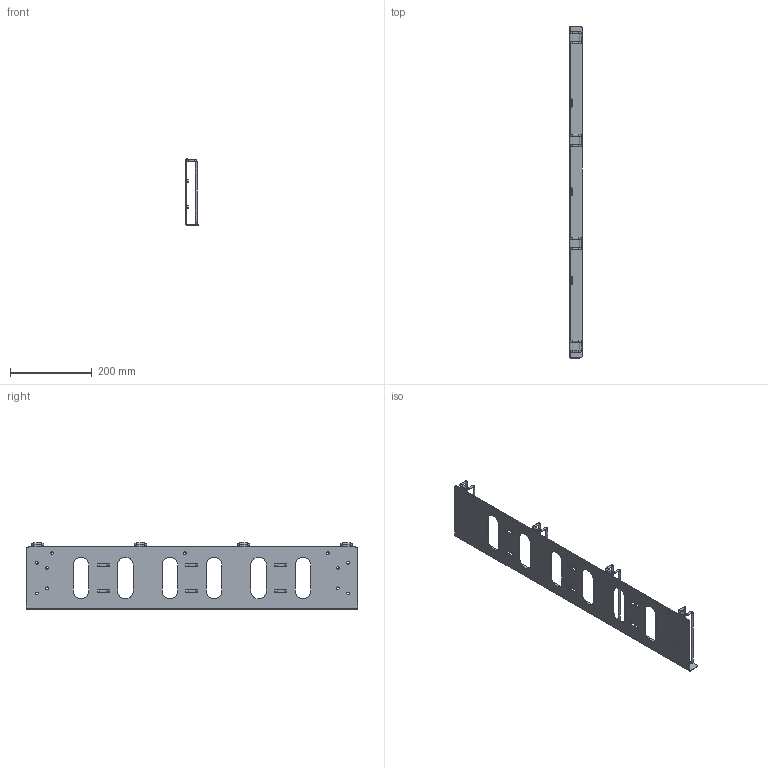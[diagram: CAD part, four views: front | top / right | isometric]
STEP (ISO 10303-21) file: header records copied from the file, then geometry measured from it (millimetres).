
FILE_DESCRIPTION((''),'2;1');
FILE_NAME('D:\scratch\ideas\frame_with_duct.stp', '2010-04-16T07:47:57',('User'),('SDRC'),'I-DEAS Master Series 9','UNIX', 'Yes');
FILE_SCHEMA(('AUTOMOTIVE_DESIGN { 1 0 10303 214 0 1 1 1 }'));
Length unit declared in the file: inch
Products named in the file (3): frame with duct; trough_vcm1; wireform_vcm1
Assembly tree (5 placements, depth 2):
  frame with duct
    trough_vcm1
    wireform_vcm1  x4
Bounding box: 31.75 x 812.8 x 162.62 mm (x, y, z)
Volume: 205617.3 mm3; surface area: 284900.8 mm2
Topology: 5 solids, 5 shells, 309 faces, 765 edges, 462 vertices
Faces by surface type: bspline 309
Entity records: 8392 total; most frequent: CARTESIAN_POINT 4181, ORIENTED_EDGE 1344, EDGE_CURVE 672, VERTEX_POINT 414, QUASI_UNIFORM_CURVE 339, EDGE_LOOP 312, FACE_OUTER_BOUND 258, ADVANCED_FACE 258
